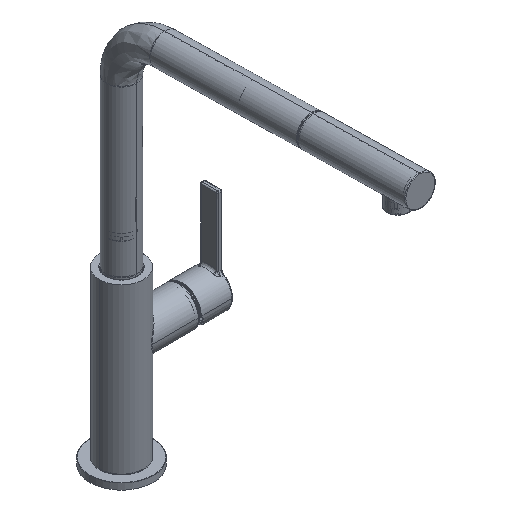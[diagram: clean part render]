
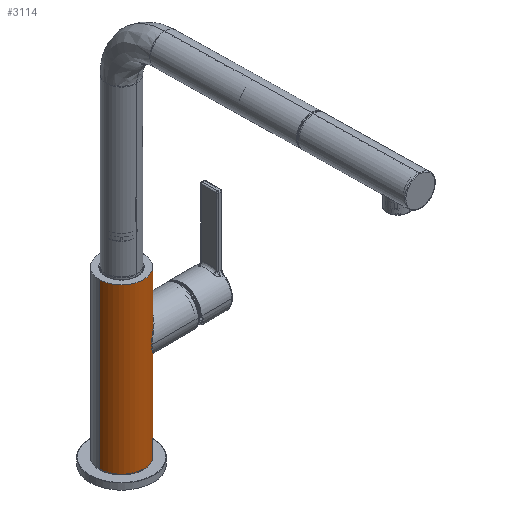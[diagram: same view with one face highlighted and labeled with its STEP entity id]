
A CAD part, isometric view. The second image highlights one B-rep face of the part: STEP entity #3114.
In plain terms, the highlighted cylindrical face has radius 17.5 mm (diameter 35 mm), a partial arc.
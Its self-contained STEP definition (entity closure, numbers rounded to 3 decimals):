
#3114=ADVANCED_FACE('',(#5598),#35700,.T.);
#5598=FACE_OUTER_BOUND('',#8128,.T.);
#8128=EDGE_LOOP('',(#17544,#17545,#17546,#17547,#17548,#17549,#17550));
#17544=ORIENTED_EDGE('',*,*,#24296,.F.);
#17545=ORIENTED_EDGE('',*,*,#24288,.F.);
#17546=ORIENTED_EDGE('',*,*,#24299,.T.);
#17547=ORIENTED_EDGE('',*,*,#24293,.F.);
#17548=ORIENTED_EDGE('',*,*,#24298,.T.);
#17549=ORIENTED_EDGE('',*,*,#24297,.T.);
#17550=ORIENTED_EDGE('',*,*,#24292,.F.);
#24288=EDGE_CURVE('',#33522,#33520,#28679,.T.);
#24292=EDGE_CURVE('',#33521,#33526,#28682,.T.);
#24293=EDGE_CURVE('',#33524,#33523,#28683,.T.);
#24296=EDGE_CURVE('',#33520,#33521,#30015,.T.);
#24297=EDGE_CURVE('',#33531,#33526,#28686,.T.);
#24298=EDGE_CURVE('',#33524,#33531,#28687,.T.);
#24299=EDGE_CURVE('',#33522,#33523,#30016,.T.);
#28679=B_SPLINE_CURVE_WITH_KNOTS('',1,(#85833,#85834),.UNSPECIFIED.,.F.,
 .F.,(2,2),(-130.,0.),.UNSPECIFIED.);
#28682=B_SPLINE_CURVE_WITH_KNOTS('',1,(#85868,#85869),.UNSPECIFIED.,.F.,
 .F.,(2,2),(-33.25,0.),.UNSPECIFIED.);
#28683=B_SPLINE_CURVE_WITH_KNOTS('',1,(#85870,#85871),.UNSPECIFIED.,.F.,
 .F.,(2,2),(0.,63.25),.UNSPECIFIED.);
#28686=B_SPLINE_CURVE_WITH_KNOTS('',3,(#85905,#85906,#85907,#85908,#85909,
#85910,#85911,#85912,#85913,#85914,#85915,#85916,#85917,#85918,#85919),
 .UNSPECIFIED.,.F.,.F.,(4,1,1,1,1,1,1,1,1,1,1,1,4),(-27.32,-25.043,
-22.766,-20.49,-18.213,-15.936,
-13.66,-11.383,-9.107,-6.83,
-4.553,-2.277,0.),.UNSPECIFIED.);
#28687=B_SPLINE_CURVE_WITH_KNOTS('',3,(#85920,#85921,#85922,#85923,#85924,
#85925,#85926,#85927,#85928,#85929,#85930,#85931,#85932,#85933,#85934),
 .UNSPECIFIED.,.F.,.F.,(4,1,1,1,1,1,1,1,1,1,1,1,4),(-27.32,-25.043,
-22.766,-20.49,-18.213,-15.937,
-13.66,-11.383,-9.107,-6.83,
-4.553,-2.277,0.),.UNSPECIFIED.);
#30015=TRIMMED_CURVE($,#30742,(#85903),(#85904),.T.,.CARTESIAN.);
#30016=TRIMMED_CURVE($,#30743,(#85936),(#85937),.T.,.CARTESIAN.);
#30742=CIRCLE('',#40018,17.5);
#30743=CIRCLE('',#40019,17.5);
#33520=VERTEX_POINT('',#85784);
#33521=VERTEX_POINT('',#85785);
#33522=VERTEX_POINT('',#85786);
#33523=VERTEX_POINT('',#85787);
#33524=VERTEX_POINT('',#85788);
#33526=VERTEX_POINT('',#85790);
#33531=VERTEX_POINT('',#85795);
#35700=CYLINDRICAL_SURFACE('',#40001,17.5);
#40001=AXIS2_PLACEMENT_3D('',#85177,#42867,$);
#40018=AXIS2_PLACEMENT_3D($,#85902,#42886,#42887);
#40019=AXIS2_PLACEMENT_3D($,#85935,#42888,#42889);
#42867=DIRECTION('',(0.,0.,1.));
#42886=DIRECTION('',(0.,0.,1.));
#42887=DIRECTION('',(-1.,0.,0.));
#42888=DIRECTION('',(0.,0.,1.));
#42889=DIRECTION('',(-1.,0.,0.));
#85177=CARTESIAN_POINT('',(0.,0.,65.2));
#85784=CARTESIAN_POINT('',(-17.5,0.,130.2));
#85785=CARTESIAN_POINT('',(17.5,0.,130.2));
#85786=CARTESIAN_POINT('',(-17.5,0.,0.2));
#85787=CARTESIAN_POINT('',(17.5,0.,0.2));
#85788=CARTESIAN_POINT('',(17.5,0.,63.45));
#85790=CARTESIAN_POINT('',(17.5,0.,96.95));
#85795=CARTESIAN_POINT('',(8.261,-15.428,80.2));
#85833=CARTESIAN_POINT('',(-17.5,0.,0.2));
#85834=CARTESIAN_POINT('',(-17.5,0.,130.2));
#85868=CARTESIAN_POINT('',(17.5,0.,130.2));
#85869=CARTESIAN_POINT('',(17.5,0.,96.95));
#85870=CARTESIAN_POINT('',(17.5,0.,63.45));
#85871=CARTESIAN_POINT('',(17.5,0.,0.2));
#85902=CARTESIAN_POINT('',(0.,0.,130.2));
#85903=CARTESIAN_POINT('',(-17.5,0.,130.2));
#85904=CARTESIAN_POINT('',(17.5,0.,130.2));
#85905=CARTESIAN_POINT('',(8.261,-15.428,80.2));
#85906=CARTESIAN_POINT('',(8.261,-15.428,80.711));
#85907=CARTESIAN_POINT('',(8.341,-15.385,81.78));
#85908=CARTESIAN_POINT('',(8.77,-15.149,83.551));
#85909=CARTESIAN_POINT('',(9.518,-14.697,85.419));
#85910=CARTESIAN_POINT('',(10.51,-14.014,87.307));
#85911=CARTESIAN_POINT('',(11.707,-13.046,89.244));
#85912=CARTESIAN_POINT('',(13.119,-11.652,91.289));
#85913=CARTESIAN_POINT('',(14.57,-9.793,93.244));
#85914=CARTESIAN_POINT('',(15.763,-7.721,94.781));
#85915=CARTESIAN_POINT('',(16.627,-5.605,95.868));
#85916=CARTESIAN_POINT('',(17.17,-3.572,96.543));
#85917=CARTESIAN_POINT('',(17.449,-1.691,96.888));
#85918=CARTESIAN_POINT('',(17.5,-0.543,96.95));
#85919=CARTESIAN_POINT('',(17.5,0.,96.95));
#85920=CARTESIAN_POINT('',(17.5,0.,63.45));
#85921=CARTESIAN_POINT('',(17.5,-0.554,63.45));
#85922=CARTESIAN_POINT('',(17.447,-1.725,63.515));
#85923=CARTESIAN_POINT('',(17.157,-3.64,63.873));
#85924=CARTESIAN_POINT('',(16.593,-5.71,64.574));
#85925=CARTESIAN_POINT('',(15.695,-7.861,65.705));
#85926=CARTESIAN_POINT('',(14.476,-9.931,67.28));
#85927=CARTESIAN_POINT('',(13.024,-11.756,69.243));
#85928=CARTESIAN_POINT('',(11.641,-13.103,71.259));
#85929=CARTESIAN_POINT('',(10.465,-14.047,73.172));
#85930=CARTESIAN_POINT('',(9.491,-14.715,75.041));
#85931=CARTESIAN_POINT('',(8.759,-15.155,76.889));
#85932=CARTESIAN_POINT('',(8.339,-15.386,78.638));
#85933=CARTESIAN_POINT('',(8.261,-15.428,79.695));
#85934=CARTESIAN_POINT('',(8.261,-15.428,80.2));
#85935=CARTESIAN_POINT('',(0.,0.,0.2));
#85936=CARTESIAN_POINT('',(-17.5,0.,0.2));
#85937=CARTESIAN_POINT('',(17.5,0.,0.2));
